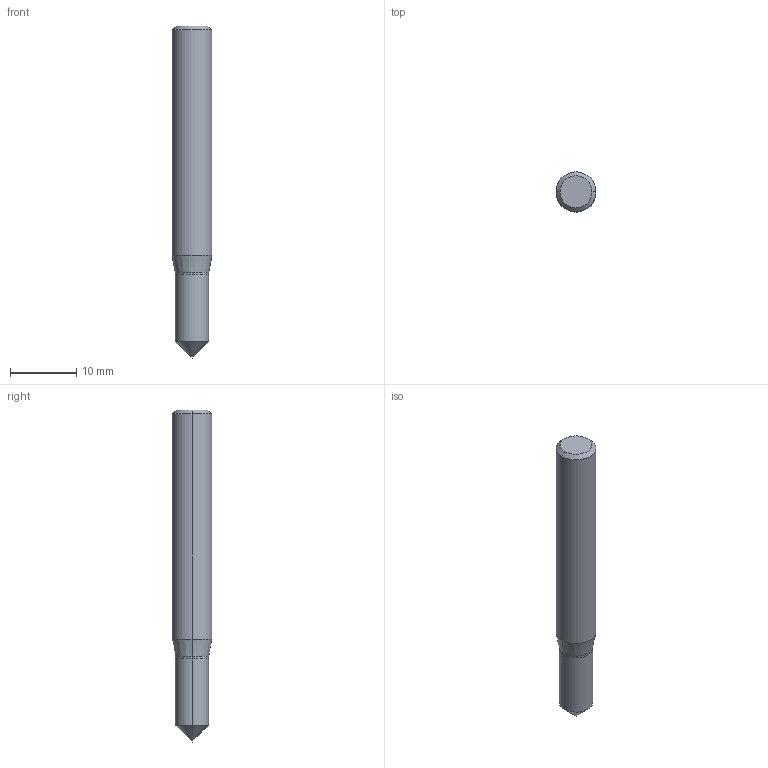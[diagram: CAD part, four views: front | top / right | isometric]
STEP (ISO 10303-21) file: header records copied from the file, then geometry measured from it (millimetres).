
FILE_DESCRIPTION (( 'STEP AP214' ), '1' );
FILE_NAME ('690.050.09_3D-model.step', '2022-02-19T07:40:45', ( '' ), ( '' ), 'SwSTEP 2.0', 'SolidWorks 2020', '' );
FILE_SCHEMA (( 'AUTOMOTIVE_DESIGN' ));
Length unit declared in the file: millimetre
Products named in the file (3): 690.050.09_3D-model; NOCUT-3D^Baugr31; CUT-3D^Baugr31
Assembly tree (2 placements, depth 2):
  690.050.09_3D-model
    CUT-3D^Baugr31
    NOCUT-3D^Baugr31
Bounding box: 6 x 6 x 50 mm (x, y, z)
Volume: 1255.7 mm3; surface area: 947.9 mm2
Topology: 2 solids, 2 shells, 15 faces, 28 edges, 15 vertices
Faces by surface type: cone 6, cylinder 4, plane 3, torus 2
Entity records: 482 total; most frequent: DIRECTION 88, CARTESIAN_POINT 64, ORIENTED_EDGE 52, AXIS2_PLACEMENT_3D 39, EDGE_CURVE 26, CIRCLE 16, FACE_OUTER_BOUND 15, VERTEX_POINT 15
